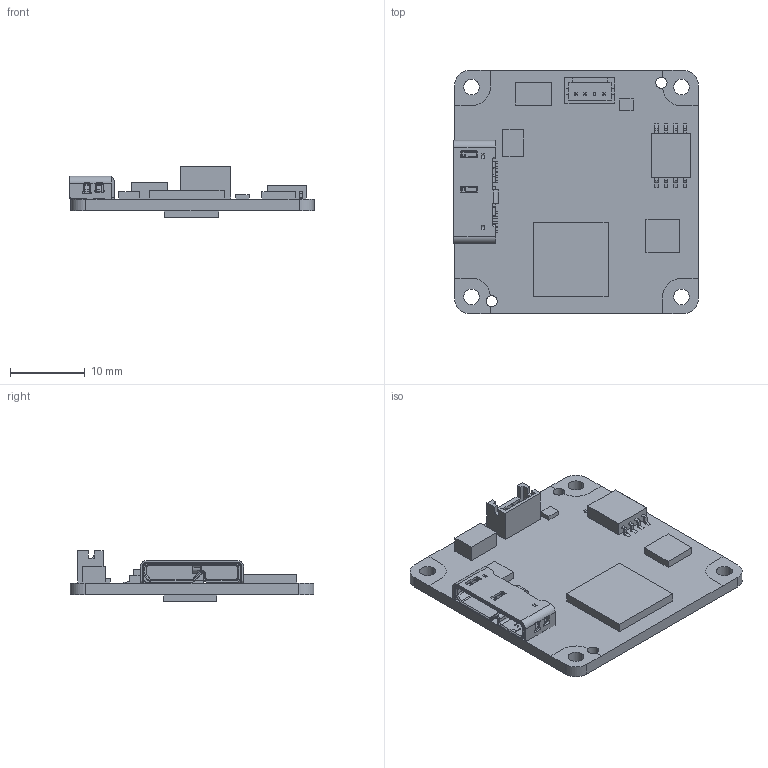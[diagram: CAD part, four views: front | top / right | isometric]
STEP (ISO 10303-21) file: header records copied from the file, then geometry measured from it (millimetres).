
FILE_DESCRIPTION (( 'STEP AP203' ), '1' );
FILE_NAME ('ven_505_u3(single board)_user_s1.0.0.STEP', '2022-03-01T09:51:52', ( '' ), ( '' ), 'SwSTEP 2.0', 'SolidWorks 2016', '' );
FILE_SCHEMA (( 'CONFIG_CONTROL_DESIGN' ));
Length unit declared in the file: millimetre
Products named in the file (1): ven_505_u3(single board)_user_s1.0.0
Bounding box: 32.64 x 32.5 x 6.73 mm (x, y, z)
Volume: 2157.6 mm3; surface area: 3549.1 mm2
Topology: 5 solids, 6 shells, 944 faces, 2730 edges, 1791 vertices
Faces by surface type: plane 637, cylinder 281, cone 14, torus 12
Entity records: 31850 total; most frequent: CARTESIAN_POINT 6985, ORIENTED_EDGE 5460, DIRECTION 4794, EDGE_CURVE 2730, LINE 2016, VECTOR 2016, VERTEX_POINT 1791, AXIS2_PLACEMENT_3D 1389
